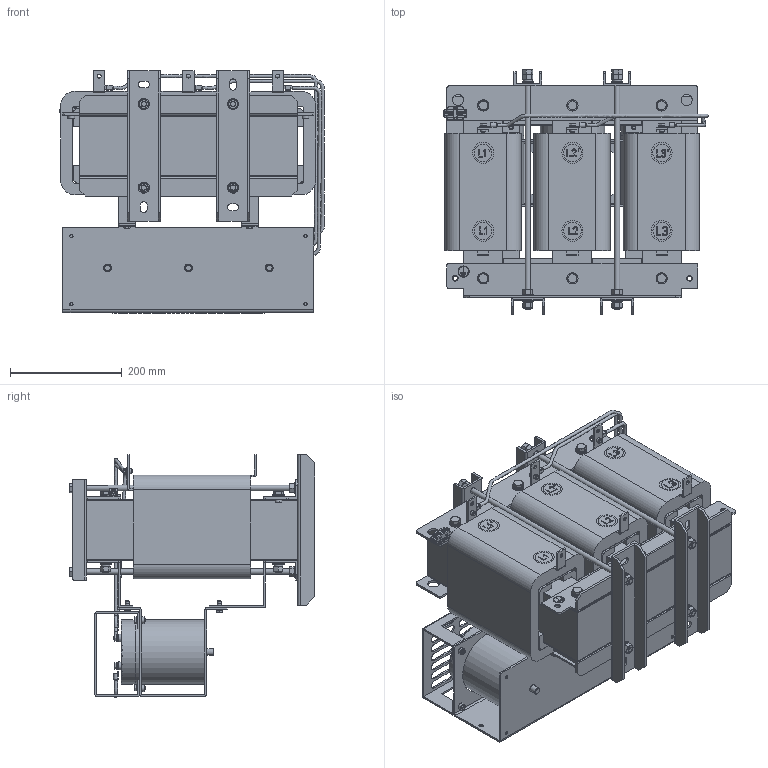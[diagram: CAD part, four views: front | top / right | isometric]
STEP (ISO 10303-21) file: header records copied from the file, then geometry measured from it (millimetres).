
FILE_DESCRIPTION(('STEP AP203'), '1');
FILE_NAME('蔓躅漤铋 耔眢耥 翳朦蝠 _ ISINOF-110_138-6', '', ('UNSPECIFIED'), ('UNSPECIFIED'), 'C3D Converter', 'C3D Toolkit', '');
FILE_SCHEMA(('CONFIG_CONTROL_DESIGN'));
Length unit declared in the file: millimetre
Products named in the file (40): ISINOF-110/138-6; LРНіЕМх12x12x210; LРНЦ吭X2\04560415\X0\; LРНЦ吭X2\04560415\X0\1; M10А苒X2\0451041B\X0\; RNB14-6S; 吒X2\0425\X0\116-150; UРН琵X2\042704050415\X0\ 60x30x4; UРНС№Мх 50x25x4; 琵X2\04370418042D0458042C\X0\ ; ёЗЧУ; ї琵X2\041E\X0\做зЧУKV223-2P; А降еМх70-390-2; А降еМх琵X2\0436\X0\豹X2\0435\X0\70-68-2; БщЅЗВЭЛЁM10; ИэПаМъРѕ390-380-106ЈЁ70-160; ЙПјРјю450-62-4ЈЁ70-160; ПВјРјю 70-160; ПВјРјю 70-160  ЅУ琵X2\042804570427\X0\; ПЯИ¦138A; ДёЕЕ琵X2\0436\X0\豹X2\0435\X0\; ДЪДёЕЕ20x3; НвДёЕЕ20x3; plain washers--product grade c gb_GB_FASTENER_WASHER_SMWC 10; spring lock washers--normal type gb_GB_FASTENER_WASHER_SW 10; hexagon nuts grade c gb_GB_FASTENER_NUT_SNC1 M10-N; Cable_1-gb_assembly-032; 琵X2\043704100412\X0\^Cable_1-gb_assembly-032; Cable_2-gb_assembly-025; 琵X2\043704100412\X0\^Cable_2-gb_assembly-025; Cable_3-gb_assembly-019; 琵X2\043704100412\X0\^Cable_3-gb_assembly-019; Cable_4-gb_assembly-014; 琵X2\043704100412\X0\^Cable_4-gb_assembly-014; plain washers--product grade c gb_GB_FASTENER_WASHER_SMWC 6; hex head bolts-full thread grade c gb_GB_FASTENER_BOLT_HHBFTC M6X12-N; hex head bolts-full thread grade c gb_GB_FASTENER_BOLT_HHBFTC M6X16-N; L1 L2 L3МщЦЅ; L1ЎЇ L2Ўｮ L3ЎЇМщЦЅ; 琵X2\0428\X0\崤X2\043A\X0\
Assembly tree (198 placements, depth 3):
  ISINOF-110/138-6
    LРНіЕМх12x12x210  x12
    LРНЦ吭X2\04560415\X0\  x2
    LРНЦ吭X2\04560415\X0\1  x2
    M10А苒X2\0451041B\X0\  x4
    RNB14-6S  x9
    吒X2\0425\X0\116-150  x3
    UРН琵X2\042704050415\X0\ 60x30x4  x2
    UРНС№Мх 50x25x4  x2
    琵X2\04370418042D0458042C\X0\ 
    ёЗЧУ
    ї琵X2\041E\X0\做зЧУKV223-2P
    А降еМх70-390-2  x6
    А降еМх琵X2\0436\X0\豹X2\0435\X0\70-68-2  x8
    БщЅЗВЭЛЁM10  x6
    ИэПаМъРѕ390-380-106ЈЁ70-160
    ЙПјРјю450-62-4ЈЁ70-160  x2
    ПВјРјю 70-160
    ПВјРјю 70-160  ЅУ琵X2\042804570427\X0\
    ПЯИ¦138A  x3
    ДёЕЕ琵X2\0436\X0\豹X2\0435\X0\  x3
    ДЪДёЕЕ20x3  x3
    НвДёЕЕ20x3  x3
    plain washers--product grade c gb_GB_FASTENER_WASHER_SMWC 10  x40
    spring lock washers--normal type gb_GB_FASTENER_WASHER_SW 10  x14
    hexagon nuts grade c gb_GB_FASTENER_NUT_SNC1 M10-N  x22
    Cable_1-gb_assembly-032
      琵X2\043704100412\X0\^Cable_1-gb_assembly-032
    Cable_2-gb_assembly-025
      琵X2\043704100412\X0\^Cable_2-gb_assembly-025
    Cable_3-gb_assembly-019
      琵X2\043704100412\X0\^Cable_3-gb_assembly-019
    Cable_4-gb_assembly-014
      琵X2\043704100412\X0\^Cable_4-gb_assembly-014
    plain washers--product grade c gb_GB_FASTENER_WASHER_SMWC 6  x18
    hex head bolts-full thread grade c gb_GB_FASTENER_BOLT_HHBFTC M6X12-N  x9
    hex head bolts-full thread grade c gb_GB_FASTENER_BOLT_HHBFTC M6X16-N  x8
    L1 L2 L3МщЦЅ
    L1ЎЇ L2Ўｮ L3ЎЇМщЦЅ
    琵X2\0428\X0\崤X2\043A\X0\
Bounding box: 474.3 x 440.04 x 435.61 mm (x, y, z)
Volume: 27089967.8 mm3; surface area: 3605647.3 mm2
Topology: 216 solids, 216 shells, 2666 faces, 6077 edges, 3965 vertices
Faces by surface type: plane 1658, cylinder 708, cone 265, bspline 27, torus 8
Full cylindrical faces by diameter (mm): 3.8 x2, 4 x4, 5 x3, 6 x49, 6.2 x9, 6.4 x9, 6.6 x18, 7 x6, 8 x8, 8.376 x22, 9 x3, 10 x10, 10.9 x14, 11 x40, 12 x39, 14 x39, 16 x6, 16.1 x14, 18.2 x1, 19 x1, 20 x45, 31.5 x6, 37.5 x6, 112 x3, 116 x6, 120 x3
Entity records: 60296 total; most frequent: CARTESIAN_POINT 17100, DIRECTION 6013, ORIENTED_EDGE 5538, EDGE_CURVE 2769, AXIS2_PLACEMENT_3D 2100, VERTEX_POINT 1931, LINE 1813, VECTOR 1813
